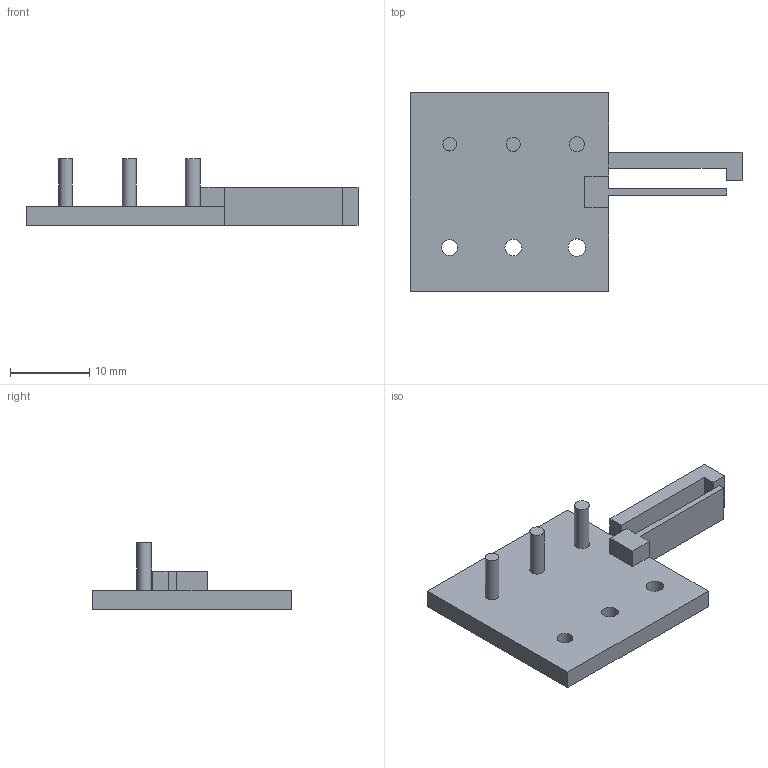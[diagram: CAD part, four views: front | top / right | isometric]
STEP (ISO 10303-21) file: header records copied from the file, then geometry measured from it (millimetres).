
FILE_DESCRIPTION(('Open CASCADE Model'),'2;1');
FILE_NAME('Open CASCADE Shape Model','2026-10-20T15:14:24',('Author'),( 'Open CASCADE'),'Open CASCADE STEP processor 7.8','Open CASCADE 7.8' ,'Unknown');
FILE_SCHEMA(('AUTOMOTIVE_DESIGN { 1 0 10303 214 1 1 1 1 }'));
Length unit declared in the file: millimetre
Products named in the file (1): Open CASCADE STEP translator 7.8 22
Bounding box: 41.8 x 25 x 8.4 mm (x, y, z)
Volume: 1783.6 mm3; surface area: 2078.8 mm2
Topology: 1 solids, 1 shells, 31 faces, 76 edges, 50 vertices
Faces by surface type: plane 25, cylinder 6
Full cylindrical faces by diameter (mm): 1.7 x1, 1.8 x1, 1.9 x1, 2 x1, 2.1 x1, 2.2 x1
Entity records: 1922 total; most frequent: CARTESIAN_POINT 358, DIRECTION 286, LINE 192, VECTOR 192, ORIENTED_EDGE 152, PCURVE 152, DEFINITIONAL_REPRESENTATION 152, EDGE_CURVE 76
